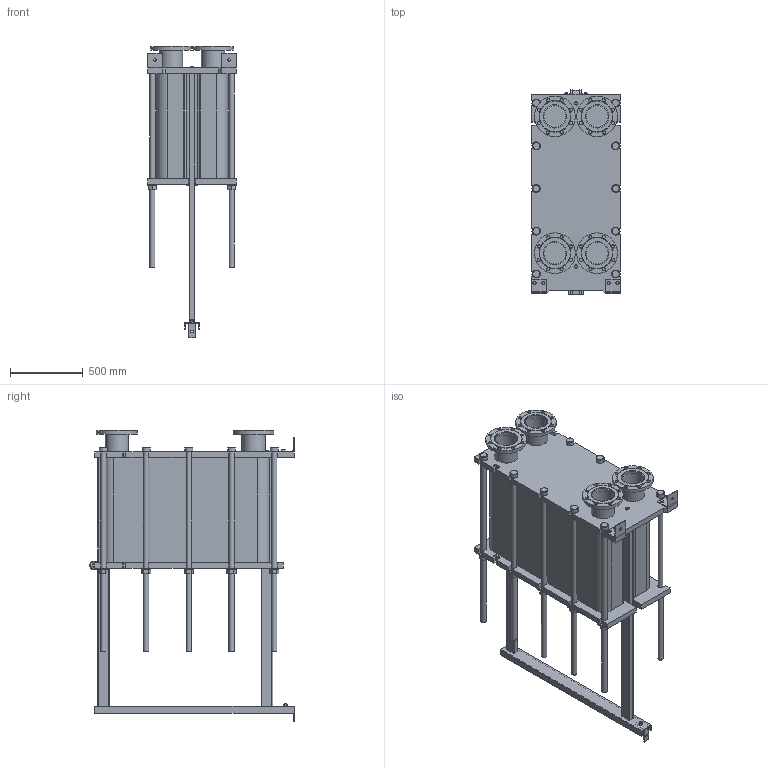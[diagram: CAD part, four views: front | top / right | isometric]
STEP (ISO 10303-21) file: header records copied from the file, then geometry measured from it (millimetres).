
FILE_DESCRIPTION(/* description */ (''),/* implementation_level */ '2;1');
FILE_NAME(/* name */ 'C:\Users\zhuro\Desktop\ENCO\TO\ЭН-041\ЭН-0,5-041-209-1.stp',/* time_stamp */ '2022-06-06T11:06:47+03:00',/* author */ ('zhuro'),/* organization */ (''),/* preprocessor_version */ 'ST-DEVELOPER v18.1',/* originating_system */ 'Autodesk Inventor 2022',/* authorisation */ '');
FILE_SCHEMA (('AUTOMOTIVE_DESIGN { 1 0 10303 214 3 1 1 }'));
Length unit declared in the file: millimetre
Products named in the file (1): ЭН-0,5-041-209-1
Bounding box: 610 x 1406.5 x 2007.5 mm (x, y, z)
Volume: 493678260.7 mm3; surface area: 11427871.7 mm2
Topology: 52 solids, 52 shells, 711 faces, 1696 edges, 1094 vertices
Faces by surface type: plane 487, cylinder 177, cone 41, torus 6
Full cylindrical faces by diameter (mm): 8 x4, 10 x2, 16 x8, 18 x3, 22 x32, 36 x24, 50 x1, 54 x10, 60 x12, 151 x4, 161 x8, 280 x4
Entity records: 22667 total; most frequent: CARTESIAN_POINT 5230, DIRECTION 3644, ORIENTED_EDGE 3392, EDGE_CURVE 1696, AXIS2_PLACEMENT_3D 1272, LINE 1100, VECTOR 1100, VERTEX_POINT 1094
